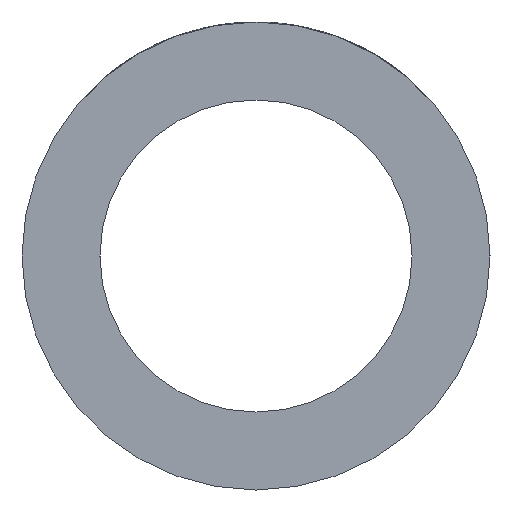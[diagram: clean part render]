
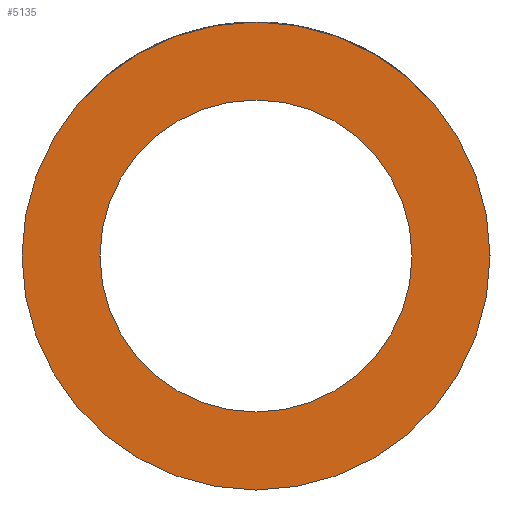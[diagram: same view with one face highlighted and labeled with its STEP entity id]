
A CAD part, left-side view. The second image highlights one B-rep face of the part: STEP entity #5135.
In plain terms, the highlighted planar face has unit normal (-1, 0, 0).
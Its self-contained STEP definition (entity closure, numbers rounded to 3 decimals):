
#113=PLANE('',#5535);
#354=CIRCLE('',#5536,30.);
#355=CIRCLE('',#5537,20.);
#1533=ORIENTED_EDGE('',*,*,#3080,.F.);
#1534=ORIENTED_EDGE('',*,*,#3081,.T.);
#3080=EDGE_CURVE('',#3854,#3854,#354,.T.);
#3081=EDGE_CURVE('',#3855,#3855,#355,.T.);
#3854=VERTEX_POINT('',#8293);
#3855=VERTEX_POINT('',#8295);
#4370=EDGE_LOOP('',(#1533));
#4371=EDGE_LOOP('',(#1534));
#4746=FACE_BOUND('',#4370,.T.);
#4747=FACE_BOUND('',#4371,.T.);
#5135=ADVANCED_FACE('',(#4746,#4747),#113,.F.);
#5535=AXIS2_PLACEMENT_3D('',#8291,#6077,#6078);
#5536=AXIS2_PLACEMENT_3D('',#8292,#6079,#6080);
#5537=AXIS2_PLACEMENT_3D('',#8294,#6081,#6082);
#6077=DIRECTION('',(1.,0.,0.));
#6078=DIRECTION('',(0.,0.,-1.));
#6079=DIRECTION('',(1.,0.,0.));
#6080=DIRECTION('',(0.,0.,-1.));
#6081=DIRECTION('',(1.,0.,0.));
#6082=DIRECTION('',(0.,0.,-1.));
#8291=CARTESIAN_POINT('',(-75.5,0.,0.));
#8292=CARTESIAN_POINT('',(-75.5,0.,0.));
#8293=CARTESIAN_POINT('',(-75.5,0.,-30.));
#8294=CARTESIAN_POINT('',(-75.5,0.,0.));
#8295=CARTESIAN_POINT('',(-75.5,0.,-20.));
